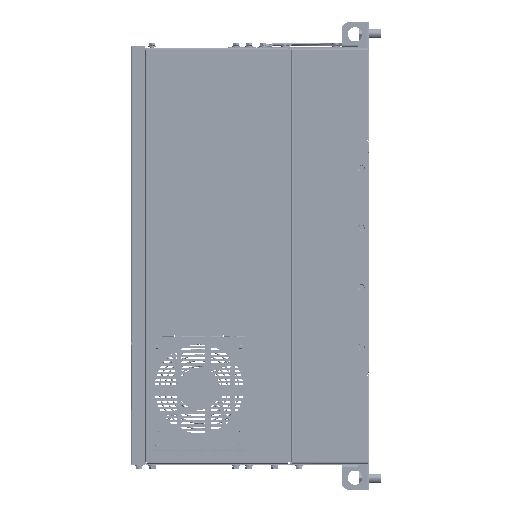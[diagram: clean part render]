
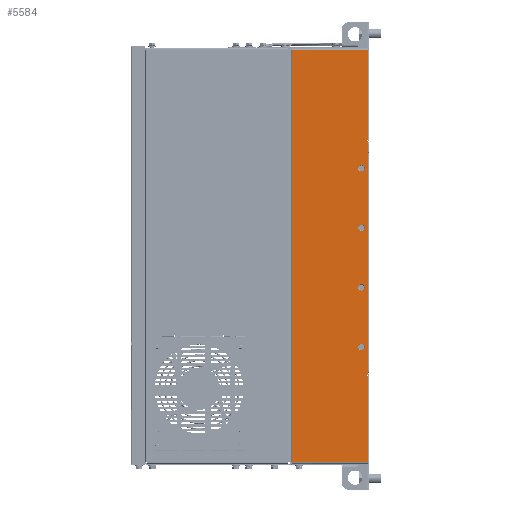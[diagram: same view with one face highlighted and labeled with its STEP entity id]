
A CAD part, left-side view. The second image highlights one B-rep face of the part: STEP entity #5584.
In plain terms, the highlighted planar face has unit normal (-1, 0, 0).
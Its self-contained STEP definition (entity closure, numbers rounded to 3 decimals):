
#281=DIRECTION('',(0.,0.,1.));
#282=VECTOR('',#281,108.7);
#283=CARTESIAN_POINT('',(-185.,2.1,-522.3));
#284=LINE('',#283,#282);
#299=DIRECTION('',(0.,1.,0.));
#300=VECTOR('',#299,1.1);
#301=CARTESIAN_POINT('',(-185.,2.1,-413.6));
#302=LINE('',#301,#300);
#307=DIRECTION('',(0.,0.,-1.));
#308=VECTOR('',#307,1.6);
#309=CARTESIAN_POINT('',(-185.,3.2,-116.4));
#310=LINE('',#309,#308);
#311=DIRECTION('',(0.,1.,0.));
#312=VECTOR('',#311,1.1);
#313=CARTESIAN_POINT('',(-185.,2.1,-116.4));
#314=LINE('',#313,#312);
#315=CARTESIAN_POINT('',(-185.,10.,-377.5));
#316=DIRECTION('',(-1.,0.,0.));
#317=DIRECTION('',(0.,-1.,0.));
#318=AXIS2_PLACEMENT_3D('',#315,#316,#317);
#320=CARTESIAN_POINT('',(-185.,10.,-377.5));
#321=DIRECTION('',(-1.,0.,0.));
#322=DIRECTION('',(0.,1.,0.));
#323=AXIS2_PLACEMENT_3D('',#320,#321,#322);
#325=CARTESIAN_POINT('',(-185.,10.,-302.5));
#326=DIRECTION('',(-1.,0.,0.));
#327=DIRECTION('',(0.,-1.,0.));
#328=AXIS2_PLACEMENT_3D('',#325,#326,#327);
#330=CARTESIAN_POINT('',(-185.,10.,-302.5));
#331=DIRECTION('',(-1.,0.,0.));
#332=DIRECTION('',(0.,1.,0.));
#333=AXIS2_PLACEMENT_3D('',#330,#331,#332);
#335=CARTESIAN_POINT('',(-185.,10.,-227.5));
#336=DIRECTION('',(-1.,0.,0.));
#337=DIRECTION('',(0.,-1.,0.));
#338=AXIS2_PLACEMENT_3D('',#335,#336,#337);
#340=CARTESIAN_POINT('',(-185.,10.,-227.5));
#341=DIRECTION('',(-1.,0.,0.));
#342=DIRECTION('',(0.,1.,0.));
#343=AXIS2_PLACEMENT_3D('',#340,#341,#342);
#345=CARTESIAN_POINT('',(-185.,10.,-152.5));
#346=DIRECTION('',(-1.,0.,0.));
#347=DIRECTION('',(0.,-1.,0.));
#348=AXIS2_PLACEMENT_3D('',#345,#346,#347);
#350=CARTESIAN_POINT('',(-185.,10.,-152.5));
#351=DIRECTION('',(-1.,0.,0.));
#352=DIRECTION('',(0.,1.,0.));
#353=AXIS2_PLACEMENT_3D('',#350,#351,#352);
#381=DIRECTION('',(0.,0.,1.));
#382=VECTOR('',#381,112.7);
#383=CARTESIAN_POINT('',(-185.,2.1,-116.4));
#384=LINE('',#383,#382);
#413=DIRECTION('',(0.,1.,0.));
#414=VECTOR('',#413,94.9);
#415=CARTESIAN_POINT('',(-185.,2.1,-3.7));
#416=LINE('',#415,#414);
#453=DIRECTION('',(0.,0.,-1.));
#454=VECTOR('',#453,518.6);
#455=CARTESIAN_POINT('',(-185.,97.,-3.7));
#456=LINE('',#455,#454);
#489=DIRECTION('',(0.,-1.,0.));
#490=VECTOR('',#489,94.9);
#491=CARTESIAN_POINT('',(-185.,97.,-522.3));
#492=LINE('',#491,#490);
#667=DIRECTION('',(0.,0.,1.));
#668=VECTOR('',#667,1.6);
#669=CARTESIAN_POINT('',(-185.,3.2,-413.6));
#670=LINE('',#669,#668);
#675=DIRECTION('',(0.,-1.,0.));
#676=VECTOR('',#675,1.6);
#677=CARTESIAN_POINT('',(-185.,3.2,-412.));
#678=LINE('',#677,#676);
#683=DIRECTION('',(0.,0.,1.));
#684=VECTOR('',#683,294.);
#685=CARTESIAN_POINT('',(-185.,1.6,-412.));
#686=LINE('',#685,#684);
#691=DIRECTION('',(0.,1.,0.));
#692=VECTOR('',#691,1.6);
#693=CARTESIAN_POINT('',(-185.,1.6,-118.));
#694=LINE('',#693,#692);
#4263=CARTESIAN_POINT('',(-185.,2.1,-413.6));
#4264=VERTEX_POINT('',#4263);
#4265=CARTESIAN_POINT('',(-185.,2.1,-522.3));
#4266=VERTEX_POINT('',#4265);
#4271=CARTESIAN_POINT('',(-185.,3.2,-413.6));
#4272=VERTEX_POINT('',#4271);
#4275=CARTESIAN_POINT('',(-185.,3.2,-116.4));
#4276=CARTESIAN_POINT('',(-185.,3.2,-118.));
#4277=VERTEX_POINT('',#4275);
#4278=VERTEX_POINT('',#4276);
#4279=CARTESIAN_POINT('',(-185.,1.6,-118.));
#4280=VERTEX_POINT('',#4279);
#4281=CARTESIAN_POINT('',(-185.,1.6,-412.));
#4282=VERTEX_POINT('',#4281);
#4283=CARTESIAN_POINT('',(-185.,3.2,-412.));
#4284=VERTEX_POINT('',#4283);
#4285=CARTESIAN_POINT('',(-185.,97.,-522.3));
#4286=VERTEX_POINT('',#4285);
#4287=CARTESIAN_POINT('',(-185.,97.,-3.7));
#4288=VERTEX_POINT('',#4287);
#4289=CARTESIAN_POINT('',(-185.,2.1,-3.7));
#4290=VERTEX_POINT('',#4289);
#4291=CARTESIAN_POINT('',(-185.,2.1,-116.4));
#4292=VERTEX_POINT('',#4291);
#4293=CARTESIAN_POINT('',(-185.,5.95,-377.5));
#4294=CARTESIAN_POINT('',(-185.,14.05,-377.5));
#4295=VERTEX_POINT('',#4293);
#4296=VERTEX_POINT('',#4294);
#4297=CARTESIAN_POINT('',(-185.,5.95,-302.5));
#4298=CARTESIAN_POINT('',(-185.,14.05,-302.5));
#4299=VERTEX_POINT('',#4297);
#4300=VERTEX_POINT('',#4298);
#4301=CARTESIAN_POINT('',(-185.,5.95,-227.5));
#4302=CARTESIAN_POINT('',(-185.,14.05,-227.5));
#4303=VERTEX_POINT('',#4301);
#4304=VERTEX_POINT('',#4302);
#4305=CARTESIAN_POINT('',(-185.,5.95,-152.5));
#4306=CARTESIAN_POINT('',(-185.,14.05,-152.5));
#4307=VERTEX_POINT('',#4305);
#4308=VERTEX_POINT('',#4306);
#5531=CARTESIAN_POINT('',(-185.,0.,-1.6));
#5532=DIRECTION('',(-1.,0.,0.));
#5533=DIRECTION('',(0.,0.,1.));
#5534=AXIS2_PLACEMENT_3D('',#5531,#5532,#5533);
#5535=PLANE('',#5534);
#5537=ORIENTED_EDGE('',*,*,#5536,.T.);
#5539=ORIENTED_EDGE('',*,*,#5538,.F.);
#5541=ORIENTED_EDGE('',*,*,#5540,.F.);
#5543=ORIENTED_EDGE('',*,*,#5542,.F.);
#5545=ORIENTED_EDGE('',*,*,#5544,.F.);
#5546=ORIENTED_EDGE('',*,*,#5521,.F.);
#5547=ORIENTED_EDGE('',*,*,#5496,.F.);
#5549=ORIENTED_EDGE('',*,*,#5548,.F.);
#5551=ORIENTED_EDGE('',*,*,#5550,.F.);
#5553=ORIENTED_EDGE('',*,*,#5552,.F.);
#5555=ORIENTED_EDGE('',*,*,#5554,.F.);
#5557=ORIENTED_EDGE('',*,*,#5556,.T.);
#5558=EDGE_LOOP('',(#5537,#5539,#5541,#5543,#5545,#5546,#5547,#5549,#5551,#5553,
#5555,#5557));
#5559=FACE_OUTER_BOUND('',#5558,.F.);
#5561=ORIENTED_EDGE('',*,*,#5560,.T.);
#5563=ORIENTED_EDGE('',*,*,#5562,.T.);
#5564=EDGE_LOOP('',(#5561,#5563));
#5565=FACE_BOUND('',#5564,.F.);
#5567=ORIENTED_EDGE('',*,*,#5566,.T.);
#5569=ORIENTED_EDGE('',*,*,#5568,.T.);
#5570=EDGE_LOOP('',(#5567,#5569));
#5571=FACE_BOUND('',#5570,.F.);
#5573=ORIENTED_EDGE('',*,*,#5572,.T.);
#5575=ORIENTED_EDGE('',*,*,#5574,.T.);
#5576=EDGE_LOOP('',(#5573,#5575));
#5577=FACE_BOUND('',#5576,.F.);
#5579=ORIENTED_EDGE('',*,*,#5578,.T.);
#5581=ORIENTED_EDGE('',*,*,#5580,.T.);
#5582=EDGE_LOOP('',(#5579,#5581));
#5583=FACE_BOUND('',#5582,.F.);
#319=CIRCLE('',#318,4.05);
#324=CIRCLE('',#323,4.05);
#329=CIRCLE('',#328,4.05);
#334=CIRCLE('',#333,4.05);
#339=CIRCLE('',#338,4.05);
#344=CIRCLE('',#343,4.05);
#349=CIRCLE('',#348,4.05);
#354=CIRCLE('',#353,4.05);
#5496=EDGE_CURVE('',#4266,#4264,#284,.T.);
#5521=EDGE_CURVE('',#4264,#4272,#302,.T.);
#5536=EDGE_CURVE('',#4277,#4278,#310,.T.);
#5538=EDGE_CURVE('',#4280,#4278,#694,.T.);
#5540=EDGE_CURVE('',#4282,#4280,#686,.T.);
#5542=EDGE_CURVE('',#4284,#4282,#678,.T.);
#5544=EDGE_CURVE('',#4272,#4284,#670,.T.);
#5548=EDGE_CURVE('',#4286,#4266,#492,.T.);
#5550=EDGE_CURVE('',#4288,#4286,#456,.T.);
#5552=EDGE_CURVE('',#4290,#4288,#416,.T.);
#5554=EDGE_CURVE('',#4292,#4290,#384,.T.);
#5556=EDGE_CURVE('',#4292,#4277,#314,.T.);
#5560=EDGE_CURVE('',#4295,#4296,#319,.T.);
#5562=EDGE_CURVE('',#4296,#4295,#324,.T.);
#5566=EDGE_CURVE('',#4299,#4300,#329,.T.);
#5568=EDGE_CURVE('',#4300,#4299,#334,.T.);
#5572=EDGE_CURVE('',#4303,#4304,#339,.T.);
#5574=EDGE_CURVE('',#4304,#4303,#344,.T.);
#5578=EDGE_CURVE('',#4307,#4308,#349,.T.);
#5580=EDGE_CURVE('',#4308,#4307,#354,.T.);
#5584=ADVANCED_FACE('',(#5559,#5565,#5571,#5577,#5583),#5535,.T.);
